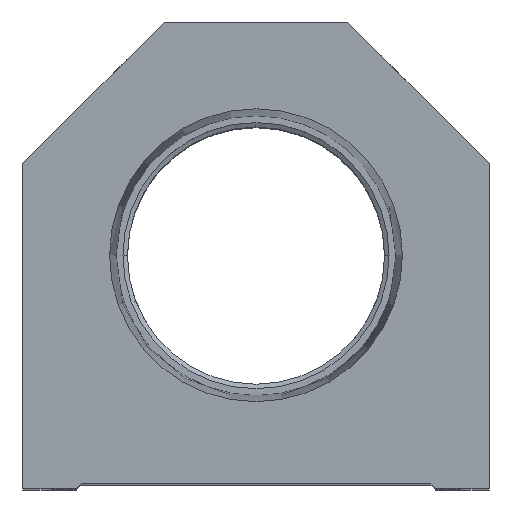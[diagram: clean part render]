
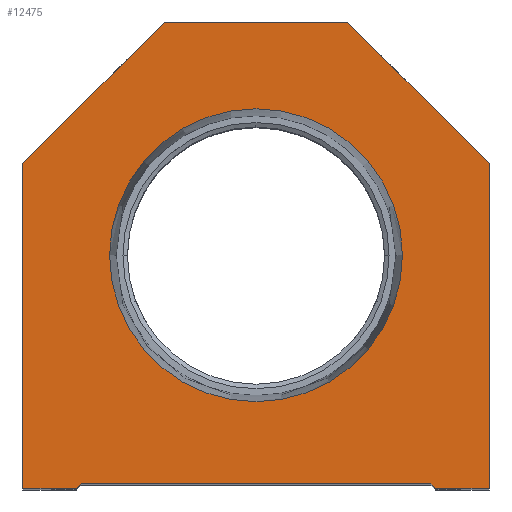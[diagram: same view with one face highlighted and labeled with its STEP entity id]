
A CAD part, top view. The second image highlights one B-rep face of the part: STEP entity #12475.
In plain terms, the highlighted planar face has unit normal (0, 0, 1).
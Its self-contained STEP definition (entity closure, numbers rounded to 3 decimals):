
#258 = CARTESIAN_POINT ( 'NONE',  ( -19.55, 0., 0. ) ) ;
#688 = LINE ( 'NONE', #3801, #1648 ) ;
#957 = DIRECTION ( 'NONE',  ( 0., 0., 1. ) ) ;
#1243 = EDGE_CURVE ( 'NONE', #16800, #7305, #18447, .T. ) ;
#1455 = ORIENTED_EDGE ( 'NONE', *, *, #12373, .T. ) ;
#1648 = VECTOR ( 'NONE', #9773, 1000. ) ;
#1696 = DIRECTION ( 'NONE',  ( 1., 0., 0. ) ) ;
#2087 = ORIENTED_EDGE ( 'NONE', *, *, #4556, .T. ) ;
#2841 = CARTESIAN_POINT ( 'NONE',  ( 19.55, 0., 0. ) ) ;
#3417 = ORIENTED_EDGE ( 'NONE', *, *, #5947, .F. ) ;
#3480 = LINE ( 'NONE', #9648, #15181 ) ;
#3768 = CARTESIAN_POINT ( 'NONE',  ( 10., 50.8, 0. ) ) ;
#3801 = CARTESIAN_POINT ( 'NONE',  ( -19.05, 0., 0. ) ) ;
#4173 = ORIENTED_EDGE ( 'NONE', *, *, #7997, .T. ) ;
#4348 = DIRECTION ( 'NONE',  ( 0., -1., 0. ) ) ;
#4367 = ORIENTED_EDGE ( 'NONE', *, *, #18578, .T. ) ;
#4556 = EDGE_CURVE ( 'NONE', #7182, #6454, #7072, .T. ) ;
#4699 = ORIENTED_EDGE ( 'NONE', *, *, #12448, .T. ) ;
#4927 = CARTESIAN_POINT ( 'NONE',  ( 19.05, 0., 0. ) ) ;
#5457 = DIRECTION ( 'NONE',  ( 0., 0., 1. ) ) ;
#5662 = CARTESIAN_POINT ( 'NONE',  ( 0., 0., 0. ) ) ;
#5674 = CIRCLE ( 'NONE', #7213, 15.947 ) ;
#5719 = VERTEX_POINT ( 'NONE', #13824 ) ;
#5756 = LINE ( 'NONE', #11712, #10188 ) ;
#5947 = EDGE_CURVE ( 'NONE', #11841, #5719, #5674, .T. ) ;
#6006 = CARTESIAN_POINT ( 'NONE',  ( 0., 25.4, 0. ) ) ;
#6264 = EDGE_CURVE ( 'NONE', #5719, #11841, #18195, .T. ) ;
#6371 = CARTESIAN_POINT ( 'NONE',  ( -25.4, 35.4, 0. ) ) ;
#6454 = VERTEX_POINT ( 'NONE', #15960 ) ;
#6487 = VERTEX_POINT ( 'NONE', #13034 ) ;
#6628 = VERTEX_POINT ( 'NONE', #3768 ) ;
#6777 = CARTESIAN_POINT ( 'NONE',  ( -25.4, 35.4, 0. ) ) ;
#6909 = DIRECTION ( 'NONE',  ( 1., 0., 0. ) ) ;
#6961 = ORIENTED_EDGE ( 'NONE', *, *, #6264, .F. ) ;
#7072 = LINE ( 'NONE', #13053, #17319 ) ;
#7182 = VERTEX_POINT ( 'NONE', #258 ) ;
#7192 = VECTOR ( 'NONE', #13928, 1000. ) ;
#7213 = AXIS2_PLACEMENT_3D ( 'NONE', #11211, #5457, #11412 ) ;
#7305 = VERTEX_POINT ( 'NONE', #6777 ) ;
#7723 = LINE ( 'NONE', #16753, #11727 ) ;
#7997 = EDGE_CURVE ( 'NONE', #8671, #17913, #9530, .T. ) ;
#8121 = ORIENTED_EDGE ( 'NONE', *, *, #16127, .T. ) ;
#8399 = LINE ( 'NONE', #19048, #16131 ) ;
#8671 = VERTEX_POINT ( 'NONE', #2841 ) ;
#9397 = DIRECTION ( 'NONE',  ( -1., 0., 0. ) ) ;
#9502 = EDGE_LOOP ( 'NONE', ( #16944, #2087, #4367, #8121, #4173, #1455, #4699, #11671, #14333, #10283 ) ) ;
#9530 = LINE ( 'NONE', #4927, #7192 ) ;
#9586 = DIRECTION ( 'NONE',  ( -0.707, -0.707, 0. ) ) ;
#9648 = CARTESIAN_POINT ( 'NONE',  ( 25.4, 0., 0. ) ) ;
#9697 = AXIS2_PLACEMENT_3D ( 'NONE', #6006, #16773, #1696 ) ;
#9773 = DIRECTION ( 'NONE',  ( 1., 0., 0. ) ) ;
#9799 = CARTESIAN_POINT ( 'NONE',  ( -15.947, 25.4, 0. ) ) ;
#9840 = VERTEX_POINT ( 'NONE', #12024 ) ;
#10037 = CARTESIAN_POINT ( 'NONE',  ( -19.05, 0.5, 0. ) ) ;
#10188 = VECTOR ( 'NONE', #16116, 1000. ) ;
#10283 = ORIENTED_EDGE ( 'NONE', *, *, #11285, .T. ) ;
#10314 = CARTESIAN_POINT ( 'NONE',  ( -10., 50.8, 0. ) ) ;
#10417 = DIRECTION ( 'NONE',  ( 1., 0., 0. ) ) ;
#11211 = CARTESIAN_POINT ( 'NONE',  ( 0., 25.4, 0. ) ) ;
#11285 = EDGE_CURVE ( 'NONE', #7305, #9840, #8399, .T. ) ;
#11412 = DIRECTION ( 'NONE',  ( 1., 0., 0. ) ) ;
#11671 = ORIENTED_EDGE ( 'NONE', *, *, #15234, .T. ) ;
#11712 = CARTESIAN_POINT ( 'NONE',  ( 25.4, 35.4, 0. ) ) ;
#11727 = VECTOR ( 'NONE', #9397, 1000. ) ;
#11841 = VERTEX_POINT ( 'NONE', #9799 ) ;
#12024 = CARTESIAN_POINT ( 'NONE',  ( -25.4, 0., 0. ) ) ;
#12373 = EDGE_CURVE ( 'NONE', #17913, #6487, #3480, .T. ) ;
#12401 = CARTESIAN_POINT ( 'NONE',  ( 19.05, 0.5, 0. ) ) ;
#12425 = VERTEX_POINT ( 'NONE', #12401 ) ;
#12448 = EDGE_CURVE ( 'NONE', #6487, #6628, #5756, .T. ) ;
#12462 = VECTOR ( 'NONE', #9586, 1000. ) ;
#12475 = ADVANCED_FACE ( 'NONE', ( #13080, #17811 ), #13274, .T. ) ;
#12492 = DIRECTION ( 'NONE',  ( 0., 1., 0. ) ) ;
#13034 = CARTESIAN_POINT ( 'NONE',  ( 25.4, 35.4, 0. ) ) ;
#13053 = CARTESIAN_POINT ( 'NONE',  ( -9.775, 9.775, 0. ) ) ;
#13080 = FACE_BOUND ( 'NONE', #15725, .T. ) ;
#13173 = LINE ( 'NONE', #10037, #13505 ) ;
#13274 = PLANE ( 'NONE',  #19019 ) ;
#13505 = VECTOR ( 'NONE', #10417, 1000. ) ;
#13824 = CARTESIAN_POINT ( 'NONE',  ( 15.947, 25.4, 0. ) ) ;
#13928 = DIRECTION ( 'NONE',  ( 1., 0., 0. ) ) ;
#14333 = ORIENTED_EDGE ( 'NONE', *, *, #1243, .T. ) ;
#14388 = CARTESIAN_POINT ( 'NONE',  ( 25.4, 0., 0. ) ) ;
#14430 = CARTESIAN_POINT ( 'NONE',  ( 9.775, 9.775, 0. ) ) ;
#14703 = DIRECTION ( 'NONE',  ( 0.707, 0.707, 0. ) ) ;
#15181 = VECTOR ( 'NONE', #12492, 1000. ) ;
#15234 = EDGE_CURVE ( 'NONE', #6628, #16800, #7723, .T. ) ;
#15725 = EDGE_LOOP ( 'NONE', ( #6961, #3417 ) ) ;
#15891 = DIRECTION ( 'NONE',  ( 0.707, -0.707, 0. ) ) ;
#15960 = CARTESIAN_POINT ( 'NONE',  ( -19.05, 0.5, 0. ) ) ;
#16116 = DIRECTION ( 'NONE',  ( -0.707, 0.707, 0. ) ) ;
#16127 = EDGE_CURVE ( 'NONE', #12425, #8671, #19103, .T. ) ;
#16131 = VECTOR ( 'NONE', #4348, 1000. ) ;
#16753 = CARTESIAN_POINT ( 'NONE',  ( 10., 50.8, 0. ) ) ;
#16773 = DIRECTION ( 'NONE',  ( 0., 0., 1. ) ) ;
#16800 = VERTEX_POINT ( 'NONE', #10314 ) ;
#16944 = ORIENTED_EDGE ( 'NONE', *, *, #18955, .T. ) ;
#17319 = VECTOR ( 'NONE', #14703, 1000. ) ;
#17539 = VECTOR ( 'NONE', #15891, 1000. ) ;
#17811 = FACE_OUTER_BOUND ( 'NONE', #9502, .T. ) ;
#17913 = VERTEX_POINT ( 'NONE', #14388 ) ;
#18195 = CIRCLE ( 'NONE', #9697, 15.947 ) ;
#18447 = LINE ( 'NONE', #6371, #12462 ) ;
#18578 = EDGE_CURVE ( 'NONE', #6454, #12425, #13173, .T. ) ;
#18955 = EDGE_CURVE ( 'NONE', #9840, #7182, #688, .T. ) ;
#19019 = AXIS2_PLACEMENT_3D ( 'NONE', #5662, #957, #6909 ) ;
#19048 = CARTESIAN_POINT ( 'NONE',  ( -25.4, 0., 0. ) ) ;
#19103 = LINE ( 'NONE', #14430, #17539 ) ;
